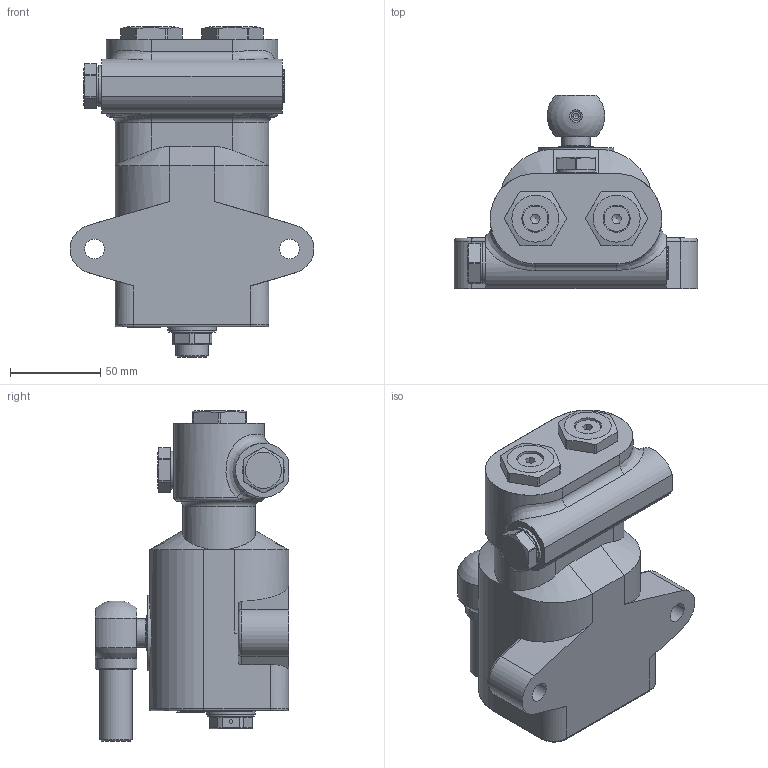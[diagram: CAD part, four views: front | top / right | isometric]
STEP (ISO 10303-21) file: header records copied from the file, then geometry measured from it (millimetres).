
FILE_DESCRIPTION((''),'2;1');
FILE_NAME('G:\HV_HYDRAULIC\AZIENDA_HV_HYDRAULIC\ARCHIVIO_DISEGNI\5_PRODOTTI_FINITI\1_POMPE_MANUALI\6091_PM2P_5\6091.0001_PM2P_5_e_(HV)\6091.0001.stp','2024-04-02T11:47:44',('christian.scardovi'),(''),'Autodesk Inventor 2013','Autodesk Inventor 2013','');
FILE_SCHEMA(('AUTOMOTIVE_DESIGN { 1 0 10303 214 1 1 1 1 }'));
Length unit declared in the file: millimetre
Products named in the file (1): 6091.0001
Bounding box: 134.9 x 107 x 183.1 mm (x, y, z)
Volume: 631732.6 mm3; surface area: 131046 mm2
Topology: 2 solids, 2 shells, 2077 faces, 5686 edges, 3719 vertices
Faces by surface type: cylinder 865, plane 558, cone 359, bspline 207, torus 79, sphere 9
Full cylindrical faces by diameter (mm): 2 x1, 4.917 x2, 5 x9, 6 x2, 6.5 x1, 8 x2, 8.917 x2, 10 x7, 11 x6, 11.5 x2, 13.5 x1, 14 x2, 14.95 x3, 15 x2, 15.4 x2, 16 x4, 18 x2, 20 x4, 21 x2, 23 x5, 25 x4, 26 x1, 26.376 x2, 27 x1, 30 x2, 32 x3, 42 x1
Entity records: 71689 total; most frequent: CARTESIAN_POINT 19160, ORIENTED_EDGE 10868, DIRECTION 10048, EDGE_CURVE 5434, AXIS2_PLACEMENT_3D 3944, VERTEX_POINT 3632, EDGE_LOOP 2366, VECTOR 2160
